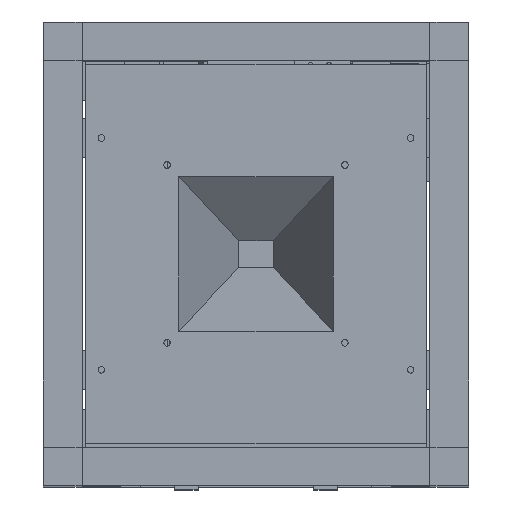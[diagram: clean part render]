
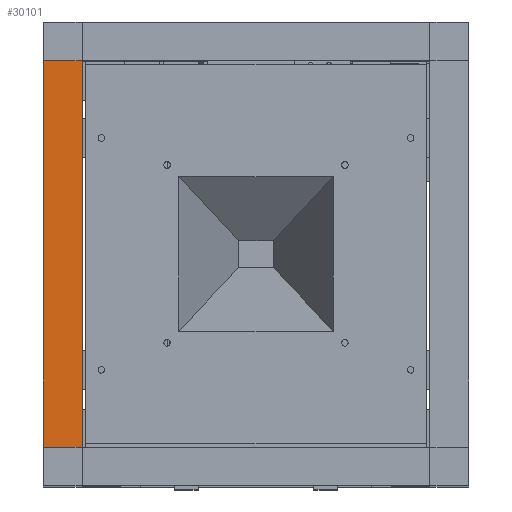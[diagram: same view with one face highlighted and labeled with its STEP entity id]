
A CAD part, top view. The second image highlights one B-rep face of the part: STEP entity #30101.
In plain terms, the highlighted planar face has unit normal (0, 0, 1).
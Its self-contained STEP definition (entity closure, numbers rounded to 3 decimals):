
#29787 = VERTEX_POINT('',#29788);
#29788 = CARTESIAN_POINT('',(0.,20.,460.));
#29795 = PLANE('',#29796);
#29796 = AXIS2_PLACEMENT_3D('',#29797,#29798,#29799);
#29797 = CARTESIAN_POINT('',(0.,20.,440.));
#29798 = DIRECTION('',(1.,0.,0.));
#29799 = DIRECTION('',(0.,0.,1.));
#29807 = PLANE('',#29808);
#29808 = AXIS2_PLACEMENT_3D('',#29809,#29810,#29811);
#29809 = CARTESIAN_POINT('',(0.,20.,440.));
#29810 = DIRECTION('',(0.,1.,0.));
#29811 = DIRECTION('',(0.,0.,1.));
#29848 = VERTEX_POINT('',#29849);
#29849 = CARTESIAN_POINT('',(0.,220.,460.));
#29863 = PLANE('',#29864);
#29864 = AXIS2_PLACEMENT_3D('',#29865,#29866,#29867);
#29865 = CARTESIAN_POINT('',(0.,220.,440.));
#29866 = DIRECTION('',(0.,1.,0.));
#29867 = DIRECTION('',(0.,0.,1.));
#29875 = EDGE_CURVE('',#29787,#29848,#29876,.T.);
#29876 = SURFACE_CURVE('',#29877,(#29881,#29888),.PCURVE_S1.);
#29877 = LINE('',#29878,#29879);
#29878 = CARTESIAN_POINT('',(0.,20.,460.));
#29879 = VECTOR('',#29880,1.);
#29880 = DIRECTION('',(0.,1.,0.));
#29881 = PCURVE('',#29795,#29882);
#29882 = DEFINITIONAL_REPRESENTATION('',(#29883),#29887);
#29883 = LINE('',#29884,#29885);
#29884 = CARTESIAN_POINT('',(20.,0.));
#29885 = VECTOR('',#29886,1.);
#29886 = DIRECTION('',(0.,-1.));
#29887 = ( GEOMETRIC_REPRESENTATION_CONTEXT(2) 
PARAMETRIC_REPRESENTATION_CONTEXT() REPRESENTATION_CONTEXT('2D SPACE',''
  ) );
#29888 = PCURVE('',#29889,#29894);
#29889 = PLANE('',#29890);
#29890 = AXIS2_PLACEMENT_3D('',#29891,#29892,#29893);
#29891 = CARTESIAN_POINT('',(0.,20.,460.));
#29892 = DIRECTION('',(0.,0.,1.));
#29893 = DIRECTION('',(1.,0.,0.));
#29894 = DEFINITIONAL_REPRESENTATION('',(#29895),#29899);
#29895 = LINE('',#29896,#29897);
#29896 = CARTESIAN_POINT('',(0.,0.));
#29897 = VECTOR('',#29898,1.);
#29898 = DIRECTION('',(0.,1.));
#29899 = ( GEOMETRIC_REPRESENTATION_CONTEXT(2) 
PARAMETRIC_REPRESENTATION_CONTEXT() REPRESENTATION_CONTEXT('2D SPACE',''
  ) );
#29907 = VERTEX_POINT('',#29908);
#29908 = CARTESIAN_POINT('',(20.,20.,460.));
#29915 = PLANE('',#29916);
#29916 = AXIS2_PLACEMENT_3D('',#29917,#29918,#29919);
#29917 = CARTESIAN_POINT('',(20.,20.,440.));
#29918 = DIRECTION('',(1.,0.,0.));
#29919 = DIRECTION('',(0.,0.,1.));
#29958 = VERTEX_POINT('',#29959);
#29959 = CARTESIAN_POINT('',(20.,220.,460.));
#29980 = EDGE_CURVE('',#29907,#29958,#29981,.T.);
#29981 = SURFACE_CURVE('',#29982,(#29986,#29993),.PCURVE_S1.);
#29982 = LINE('',#29983,#29984);
#29983 = CARTESIAN_POINT('',(20.,20.,460.));
#29984 = VECTOR('',#29985,1.);
#29985 = DIRECTION('',(0.,1.,0.));
#29986 = PCURVE('',#29915,#29987);
#29987 = DEFINITIONAL_REPRESENTATION('',(#29988),#29992);
#29988 = LINE('',#29989,#29990);
#29989 = CARTESIAN_POINT('',(20.,0.));
#29990 = VECTOR('',#29991,1.);
#29991 = DIRECTION('',(0.,-1.));
#29992 = ( GEOMETRIC_REPRESENTATION_CONTEXT(2) 
PARAMETRIC_REPRESENTATION_CONTEXT() REPRESENTATION_CONTEXT('2D SPACE',''
  ) );
#29993 = PCURVE('',#29889,#29994);
#29994 = DEFINITIONAL_REPRESENTATION('',(#29995),#29999);
#29995 = LINE('',#29996,#29997);
#29996 = CARTESIAN_POINT('',(20.,0.));
#29997 = VECTOR('',#29998,1.);
#29998 = DIRECTION('',(0.,1.));
#29999 = ( GEOMETRIC_REPRESENTATION_CONTEXT(2) 
PARAMETRIC_REPRESENTATION_CONTEXT() REPRESENTATION_CONTEXT('2D SPACE',''
  ) );
#30026 = EDGE_CURVE('',#29787,#29907,#30027,.T.);
#30027 = SURFACE_CURVE('',#30028,(#30032,#30039),.PCURVE_S1.);
#30028 = LINE('',#30029,#30030);
#30029 = CARTESIAN_POINT('',(0.,20.,460.));
#30030 = VECTOR('',#30031,1.);
#30031 = DIRECTION('',(1.,0.,0.));
#30032 = PCURVE('',#29807,#30033);
#30033 = DEFINITIONAL_REPRESENTATION('',(#30034),#30038);
#30034 = LINE('',#30035,#30036);
#30035 = CARTESIAN_POINT('',(20.,0.));
#30036 = VECTOR('',#30037,1.);
#30037 = DIRECTION('',(0.,1.));
#30038 = ( GEOMETRIC_REPRESENTATION_CONTEXT(2) 
PARAMETRIC_REPRESENTATION_CONTEXT() REPRESENTATION_CONTEXT('2D SPACE',''
  ) );
#30039 = PCURVE('',#29889,#30040);
#30040 = DEFINITIONAL_REPRESENTATION('',(#30041),#30045);
#30041 = LINE('',#30042,#30043);
#30042 = CARTESIAN_POINT('',(0.,0.));
#30043 = VECTOR('',#30044,1.);
#30044 = DIRECTION('',(1.,0.));
#30045 = ( GEOMETRIC_REPRESENTATION_CONTEXT(2) 
PARAMETRIC_REPRESENTATION_CONTEXT() REPRESENTATION_CONTEXT('2D SPACE',''
  ) );
#30073 = EDGE_CURVE('',#29848,#29958,#30074,.T.);
#30074 = SURFACE_CURVE('',#30075,(#30079,#30086),.PCURVE_S1.);
#30075 = LINE('',#30076,#30077);
#30076 = CARTESIAN_POINT('',(0.,220.,460.));
#30077 = VECTOR('',#30078,1.);
#30078 = DIRECTION('',(1.,0.,0.));
#30079 = PCURVE('',#29863,#30080);
#30080 = DEFINITIONAL_REPRESENTATION('',(#30081),#30085);
#30081 = LINE('',#30082,#30083);
#30082 = CARTESIAN_POINT('',(20.,0.));
#30083 = VECTOR('',#30084,1.);
#30084 = DIRECTION('',(0.,1.));
#30085 = ( GEOMETRIC_REPRESENTATION_CONTEXT(2) 
PARAMETRIC_REPRESENTATION_CONTEXT() REPRESENTATION_CONTEXT('2D SPACE',''
  ) );
#30086 = PCURVE('',#29889,#30087);
#30087 = DEFINITIONAL_REPRESENTATION('',(#30088),#30092);
#30088 = LINE('',#30089,#30090);
#30089 = CARTESIAN_POINT('',(0.,200.));
#30090 = VECTOR('',#30091,1.);
#30091 = DIRECTION('',(1.,0.));
#30092 = ( GEOMETRIC_REPRESENTATION_CONTEXT(2) 
PARAMETRIC_REPRESENTATION_CONTEXT() REPRESENTATION_CONTEXT('2D SPACE',''
  ) );
#30101 = ADVANCED_FACE('',(#30102),#29889,.T.);
#30102 = FACE_BOUND('',#30103,.T.);
#30103 = EDGE_LOOP('',(#30104,#30105,#30106,#30107));
#30104 = ORIENTED_EDGE('',*,*,#29875,.F.);
#30105 = ORIENTED_EDGE('',*,*,#30026,.T.);
#30106 = ORIENTED_EDGE('',*,*,#29980,.T.);
#30107 = ORIENTED_EDGE('',*,*,#30073,.F.);
